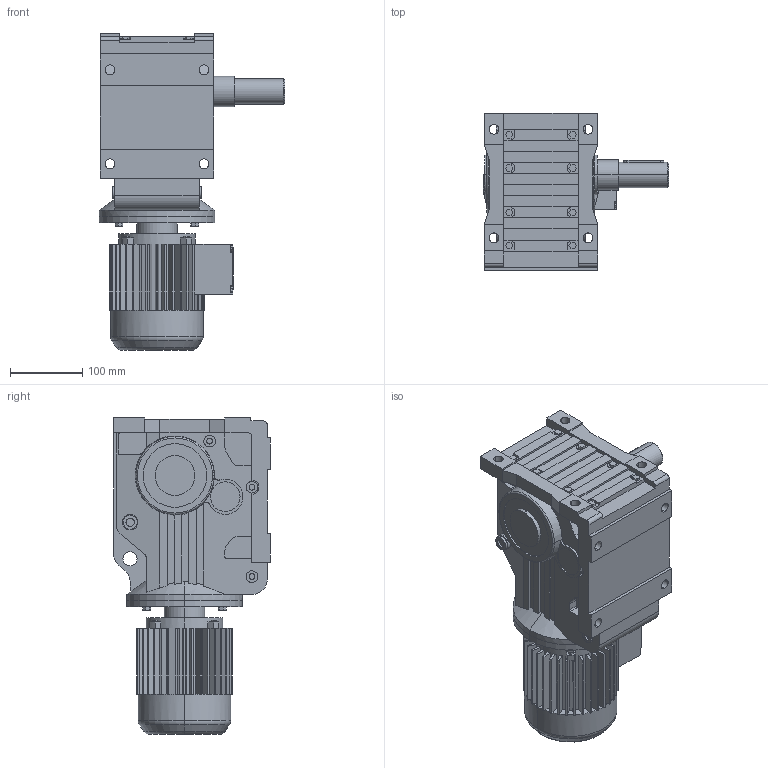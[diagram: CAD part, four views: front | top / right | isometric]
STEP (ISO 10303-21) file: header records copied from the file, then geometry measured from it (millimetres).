
FILE_DESCRIPTION(('Open CASCADE Model'),'2;1');
FILE_NAME('Open CASCADE Shape Model','2021-06-15T11:58:06',('Author'),( 'Open CASCADE'),'Open CASCADE STEP processor 6.3','Open CASCADE 6.3' ,'Unknown');
FILE_SCHEMA(('AUTOMOTIVE_DESIGN_CC2 { 1 2 10303 214 -1 1 5 4 }'));
Length unit declared in the file: millimetre
Products named in the file (4): 1_K57DR63-A; K37‵157_57.step; 萇儂_160-DR63-185-240-132-105.step; す瑩妗陑粣K_57.step
Assembly tree (3 placements, depth 2):
  1_K57DR63-A
    K37‵157_57.step
    萇儂_160-DR63-185-240-132-105.step
    す瑩妗陑粣K_57.step
Bounding box: 257 x 217 x 438 mm (x, y, z)
Volume: 8447783 mm3; surface area: 561095.7 mm2
Topology: 3 solids, 3 shells, 836 faces, 2204 edges, 1431 vertices
Faces by surface type: plane 582, cylinder 231, cone 15, torus 8
Entity records: 57462 total; most frequent: CARTESIAN_POINT 15581, DIRECTION 7217, ORIENTED_EDGE 4404, PCURVE 4404, DEFINITIONAL_REPRESENTATION 4404, LINE 3932, VECTOR 3932, EDGE_CURVE 2202
